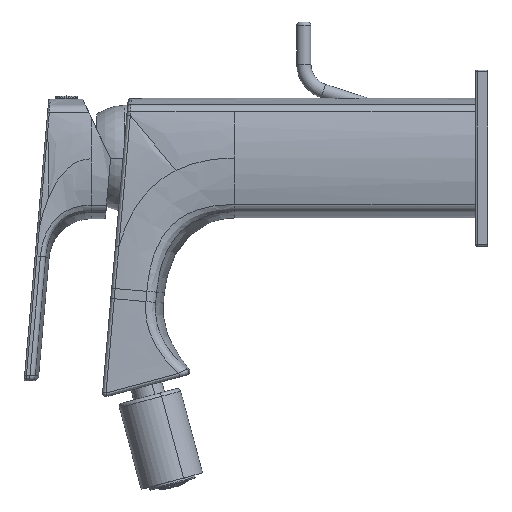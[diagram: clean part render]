
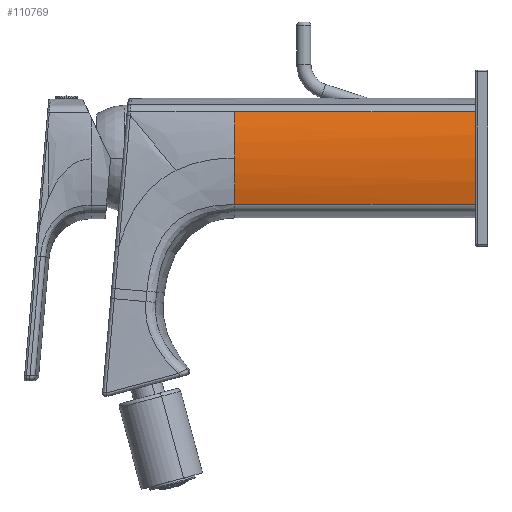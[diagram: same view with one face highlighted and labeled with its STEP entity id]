
A CAD part, left-side view. The second image highlights one B-rep face of the part: STEP entity #110769.
In plain terms, the highlighted cylindrical face has radius 50 mm (diameter 100 mm), a partial arc.
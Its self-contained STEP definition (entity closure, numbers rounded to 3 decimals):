
#18099=DIRECTION('',(0.,1.,0.));
#18100=VECTOR('',#18099,68.366);
#18101=CARTESIAN_POINT('',(-15.243,0.,-13.137));
#18102=LINE('',#18101,#18100);
#20466=CARTESIAN_POINT('',(33.,0.,0.));
#20467=DIRECTION('',(0.,-1.,0.));
#20468=DIRECTION('',(-0.965,0.,0.263));
#20469=AXIS2_PLACEMENT_3D('',#20466,#20467,#20468);
#20471=DIRECTION('',(0.,1.,0.));
#20472=VECTOR('',#20471,68.366);
#20473=CARTESIAN_POINT('',(-15.243,0.,13.137));
#20474=LINE('',#20473,#20472);
#20496=CARTESIAN_POINT('',(33.,68.366,0.));
#20497=DIRECTION('',(0.,-1.,0.));
#20498=DIRECTION('',(-1.,0.,0.));
#20499=AXIS2_PLACEMENT_3D('',#20496,#20497,#20498);
#20560=CARTESIAN_POINT('',(33.,68.366,0.));
#20561=DIRECTION('',(0.,-1.,0.));
#20562=DIRECTION('',(-0.965,0.,0.263));
#20563=AXIS2_PLACEMENT_3D('',#20560,#20561,#20562);
#79480=CARTESIAN_POINT('',(-17.,68.366,0.));
#79481=CARTESIAN_POINT('',(-15.243,68.366,
-13.137));
#79482=VERTEX_POINT('',#79480);
#79483=VERTEX_POINT('',#79481);
#79485=CARTESIAN_POINT('',(-15.243,68.366,
13.137));
#79486=VERTEX_POINT('',#79485);
#81717=CARTESIAN_POINT('',(-15.243,0.,13.137));
#81718=VERTEX_POINT('',#81717);
#81719=CARTESIAN_POINT('',(-15.243,0.,-13.137));
#81720=VERTEX_POINT('',#81719);
#110755=CARTESIAN_POINT('',(33.,0.,0.));
#110756=DIRECTION('',(0.,-1.,0.));
#110757=DIRECTION('',(0.,0.,-1.));
#110758=AXIS2_PLACEMENT_3D('',#110755,#110756,#110757);
#110759=CYLINDRICAL_SURFACE('',#110758,50.);
#110760=ORIENTED_EDGE('',*,*,#108352,.T.);
#110761=ORIENTED_EDGE('',*,*,#108321,.T.);
#110763=ORIENTED_EDGE('',*,*,#110762,.F.);
#110765=ORIENTED_EDGE('',*,*,#110764,.F.);
#110766=ORIENTED_EDGE('',*,*,#110745,.F.);
#110767=EDGE_LOOP('',(#110760,#110761,#110763,#110765,#110766));
#110768=FACE_OUTER_BOUND('',#110767,.F.);
#110769=ADVANCED_FACE('',(#110768),#110759,.T.);
#20470=CIRCLE('',#20469,50.);
#20500=CIRCLE('',#20499,50.);
#20564=CIRCLE('',#20563,50.);
#108321=EDGE_CURVE('',#81720,#79483,#18102,.T.);
#108352=EDGE_CURVE('',#81718,#81720,#20470,.T.);
#110745=EDGE_CURVE('',#81718,#79486,#20474,.T.);
#110762=EDGE_CURVE('',#79482,#79483,#20500,.T.);
#110764=EDGE_CURVE('',#79486,#79482,#20564,.T.);
